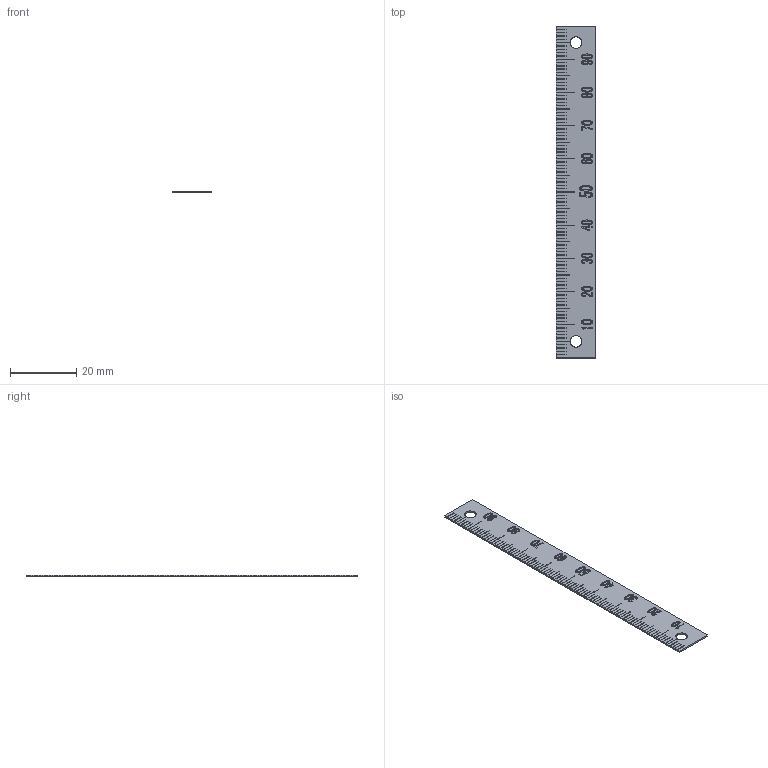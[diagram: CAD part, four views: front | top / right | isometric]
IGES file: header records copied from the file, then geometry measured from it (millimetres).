
Start section: SolidWorks IGES file using analytic representation for surfaces
Global section: file name: Y:\5.更新分\2023年対応\04xx_ALL\E\ES2N-U100R\es2n-u100r.IGS; native system: SolidWorks 2021; preprocessor: SolidWorks 2021; author: ImaoCorp; date: 230615.155546; units: millimetre
Bounding box: 12 x 100 x 0.5 mm (x, y, z)
Surface area: 2493.5 mm2 (no closed solid volume)
Topology: 0 solids, 0 shells, 759 faces, 7959 edges, 7959 vertices
Faces by surface type: bspline 755, revolution 4
